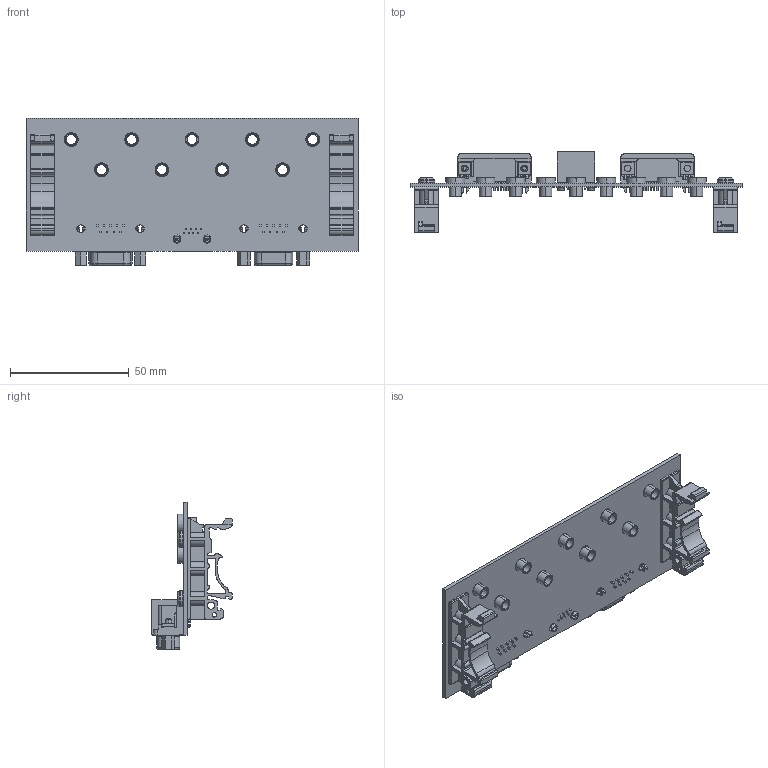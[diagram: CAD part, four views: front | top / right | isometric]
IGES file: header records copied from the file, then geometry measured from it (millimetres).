
Start section: SolidWorks IGES file using analytic representation for surfaces
Global section: file name: C:\Users\James Jarvis\Desktop\projects\screwBoards\APRS6854_BANANA_DIN_assembly.IGS; native system: SolidWorks 2012; preprocessor: SolidWorks 2012; author: James Jarvis; date: 160425.113617; units: inch
Bounding box: 139.7 x 33.8 x 61.9 mm (x, y, z)
Surface area: 36090 mm2 (no closed solid volume)
Topology: 0 solids, 0 shells, 2427 faces, 24500 edges, 24496 vertices
Faces by surface type: bspline 1546, revolution 881
